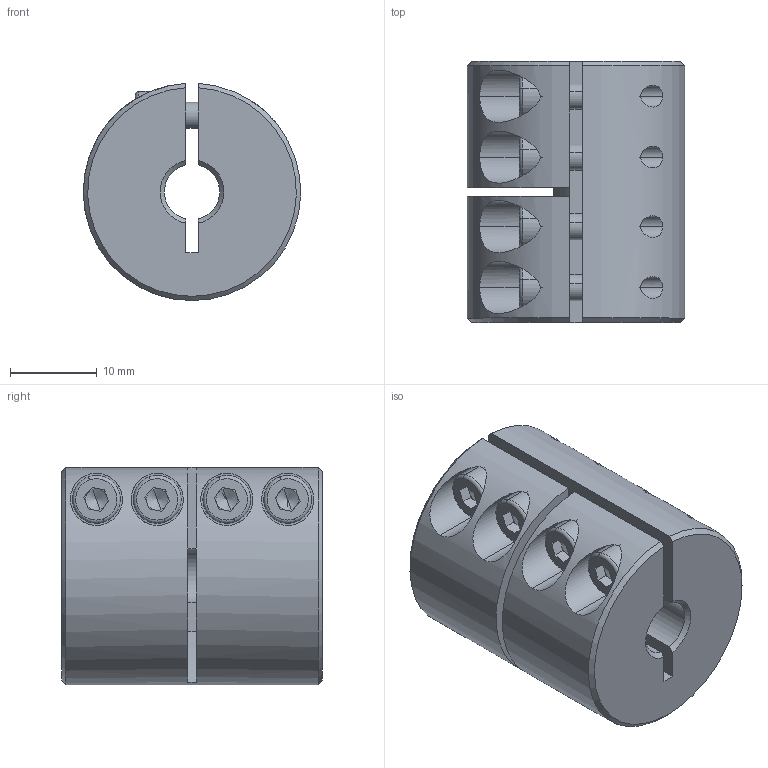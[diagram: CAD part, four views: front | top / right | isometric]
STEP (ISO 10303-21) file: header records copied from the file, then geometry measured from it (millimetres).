
FILE_DESCRIPTION (( 'STEP AP214' ), '1' );
FILE_NAME ('LL-B-D25L30-6.35-6.35½¨Ä£.STEP', '2022-07-21T03:12:41', ( '' ), ( '' ), 'SwSTEP 2.0', 'SolidWorks 2022', '' );
FILE_SCHEMA (( 'AUTOMOTIVE_DESIGN' ));
Length unit declared in the file: millimetre
Products named in the file (1): LL-B-D25L30-6.35-6.35膘耀
Bounding box: 24.99 x 30 x 24.98 mm (x, y, z)
Volume: 12563.7 mm3; surface area: 5906.8 mm2
Topology: 1 solids, 1 shells, 162 faces, 412 edges, 260 vertices
Faces by surface type: plane 82, cylinder 57, cone 15, torus 8
Entity records: 5334 total; most frequent: CARTESIAN_POINT 1351, DIRECTION 850, ORIENTED_EDGE 808, EDGE_CURVE 404, AXIS2_PLACEMENT_3D 327, VERTEX_POINT 260, VECTOR 196, LINE 196
